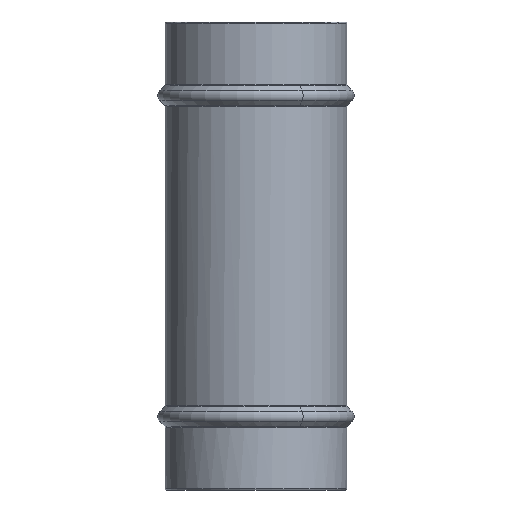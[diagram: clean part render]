
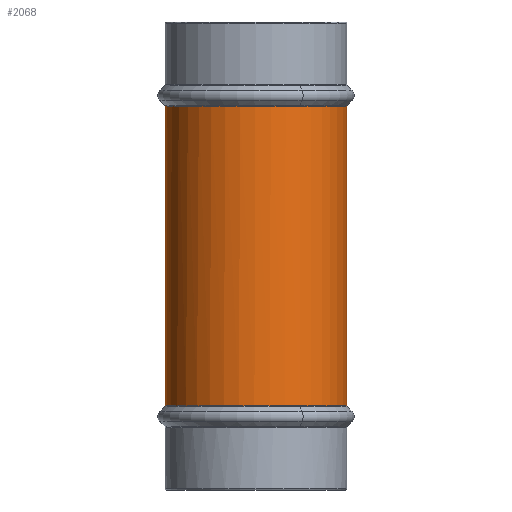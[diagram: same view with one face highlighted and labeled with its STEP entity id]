
A CAD part, front view. The second image highlights one B-rep face of the part: STEP entity #2068.
In plain terms, the highlighted cylindrical face has radius 42.7 mm (diameter 85.4 mm), a partial arc.
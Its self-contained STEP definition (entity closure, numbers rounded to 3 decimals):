
#842=CYLINDRICAL_SURFACE('',#10295,42.7);
#1126=LINE('',#14952,#1588);
#1127=LINE('',#14959,#1589);
#1128=LINE('',#14961,#1590);
#1129=LINE('',#14967,#1591);
#1588=VECTOR('',#11539,1.);
#1589=VECTOR('',#11544,1.);
#1590=VECTOR('',#11545,1.);
#1591=VECTOR('',#11550,1.);
#2068=ADVANCED_FACE('',(#2865),#842,.T.);
#2865=FACE_OUTER_BOUND('',#3497,.T.);
#3497=EDGE_LOOP('',(#4316,#4317,#4318,#4319,#4320,#4321,#4322,#4323,#4324));
#4316=ORIENTED_EDGE('',*,*,#8171,.F.);
#4317=ORIENTED_EDGE('',*,*,#8176,.F.);
#4318=ORIENTED_EDGE('',*,*,#8177,.F.);
#4319=ORIENTED_EDGE('',*,*,#8178,.F.);
#4320=ORIENTED_EDGE('',*,*,#8168,.T.);
#4321=ORIENTED_EDGE('',*,*,#8175,.F.);
#4322=ORIENTED_EDGE('',*,*,#8179,.F.);
#4323=ORIENTED_EDGE('',*,*,#8180,.F.);
#4324=ORIENTED_EDGE('',*,*,#8172,.T.);
#7237=VERTEX_POINT('',#14953);
#7238=VERTEX_POINT('',#14954);
#7240=VERTEX_POINT('',#14958);
#7241=VERTEX_POINT('',#14960);
#7242=VERTEX_POINT('',#14962);
#7244=VERTEX_POINT('',#14966);
#7245=VERTEX_POINT('',#14970);
#7246=VERTEX_POINT('',#14972);
#7247=VERTEX_POINT('',#14975);
#8168=EDGE_CURVE('',#7237,#7238,#1126,.T.);
#8171=EDGE_CURVE('',#7240,#7241,#1127,.T.);
#8172=EDGE_CURVE('',#7242,#7241,#1128,.T.);
#8175=EDGE_CURVE('',#7244,#7238,#1129,.T.);
#8176=EDGE_CURVE('',#7245,#7240,#9670,.T.);
#8177=EDGE_CURVE('',#7246,#7245,#9671,.T.);
#8178=EDGE_CURVE('',#7237,#7246,#9672,.T.);
#8179=EDGE_CURVE('',#7247,#7244,#9673,.T.);
#8180=EDGE_CURVE('',#7242,#7247,#9674,.T.);
#9670=CIRCLE('',#10290,42.7);
#9671=CIRCLE('',#10291,42.7);
#9672=CIRCLE('',#10292,42.7);
#9673=CIRCLE('',#10293,42.7);
#9674=CIRCLE('',#10294,42.7);
#10290=AXIS2_PLACEMENT_3D('',#14969,#11553,#11554);
#10291=AXIS2_PLACEMENT_3D('',#14971,#11555,#11556);
#10292=AXIS2_PLACEMENT_3D('',#14973,#11557,#11558);
#10293=AXIS2_PLACEMENT_3D('',#14974,#11559,#11560);
#10294=AXIS2_PLACEMENT_3D('',#14976,#11561,#11562);
#10295=AXIS2_PLACEMENT_3D('',#14977,#11563,#11564);
#11539=DIRECTION('',(0.,0.,-1.));
#11544=DIRECTION('',(0.,0.,-1.));
#11545=DIRECTION('',(0.,0.,1.));
#11550=DIRECTION('',(0.,0.,1.));
#11553=DIRECTION('',(0.,0.,1.));
#11554=DIRECTION('',(0.479,-0.878,0.));
#11555=DIRECTION('',(0.,0.,1.));
#11556=DIRECTION('',(-0.999,-0.046,0.));
#11557=DIRECTION('',(0.,0.,1.));
#11558=DIRECTION('',(-1.,0.,0.));
#11559=DIRECTION('',(0.,0.,-1.));
#11560=DIRECTION('',(0.479,-0.878,0.));
#11561=DIRECTION('',(0.,0.,-1.));
#11562=DIRECTION('',(1.,0.,0.));
#11563=DIRECTION('',(0.,0.,1.));
#11564=DIRECTION('',(1.,0.,0.));
#14952=CARTESIAN_POINT('',(3.5,46.2,-39.657));
#14953=CARTESIAN_POINT('',(3.5,46.2,-39.657));
#14954=CARTESIAN_POINT('',(3.5,46.2,-110.));
#14958=CARTESIAN_POINT('',(88.9,46.2,-39.657));
#14959=CARTESIAN_POINT('',(88.9,46.2,-39.657));
#14960=CARTESIAN_POINT('',(88.9,46.2,-110.));
#14961=CARTESIAN_POINT('',(88.9,46.2,-180.343));
#14962=CARTESIAN_POINT('',(88.9,46.2,-180.343));
#14966=CARTESIAN_POINT('',(3.5,46.2,-180.343));
#14967=CARTESIAN_POINT('',(3.5,46.2,-180.343));
#14969=CARTESIAN_POINT('',(46.2,46.2,-39.657));
#14970=CARTESIAN_POINT('',(66.671,8.727,-39.657));
#14971=CARTESIAN_POINT('',(46.2,46.2,-39.657));
#14972=CARTESIAN_POINT('',(3.546,44.217,-39.657));
#14973=CARTESIAN_POINT('',(46.2,46.2,-39.657));
#14974=CARTESIAN_POINT('',(46.2,46.2,-180.343));
#14975=CARTESIAN_POINT('',(66.671,8.727,-180.343));
#14976=CARTESIAN_POINT('',(46.2,46.2,-180.343));
#14977=CARTESIAN_POINT('',(46.2,46.2,-55.));
